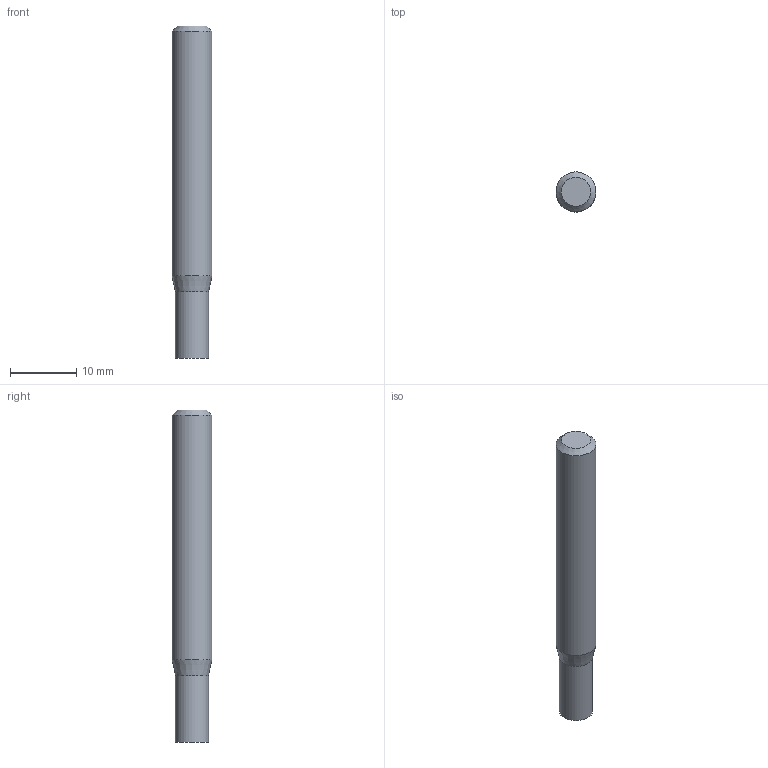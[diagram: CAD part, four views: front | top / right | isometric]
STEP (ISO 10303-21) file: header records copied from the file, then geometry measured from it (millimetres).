
FILE_DESCRIPTION((''),'2;1');
FILE_NAME('C:\Users\nsx150\AppData\Local\Temp\Mastercam 2021\E36A1X9CCL\TEMP.step','2023-04-21T15:13:06',(''),(''),'STEP Write','Mastercam 2021 ... CNC Software, Inc.','');
FILE_SCHEMA(('AUTOMOTIVE_DESIGN'));
Length unit declared in the file: millimetre
Products named in the file (1): None
Bounding box: 6 x 6 x 50 mm (x, y, z)
Volume: 1311.4 mm3; surface area: 985.8 mm2
Topology: 2 solids, 2 shells, 8 faces, 10 edges, 6 vertices
Faces by surface type: plane 4, cylinder 2, cone 2
Full cylindrical faces by diameter (mm): 5 x1, 6 x1
Entity records: 190 total; most frequent: DIRECTION 32, CARTESIAN_POINT 22, AXIS2_PLACEMENT_3D 16, ORIENTED_EDGE 12, EDGE_LOOP 12, STYLED_ITEM 11, ADVANCED_FACE 8, VERTEX_POINT 6
